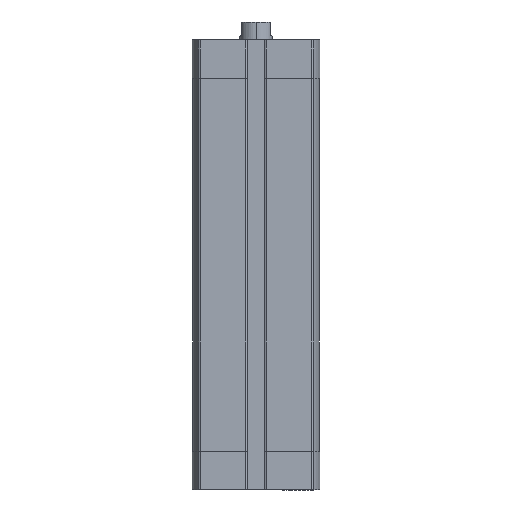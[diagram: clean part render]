
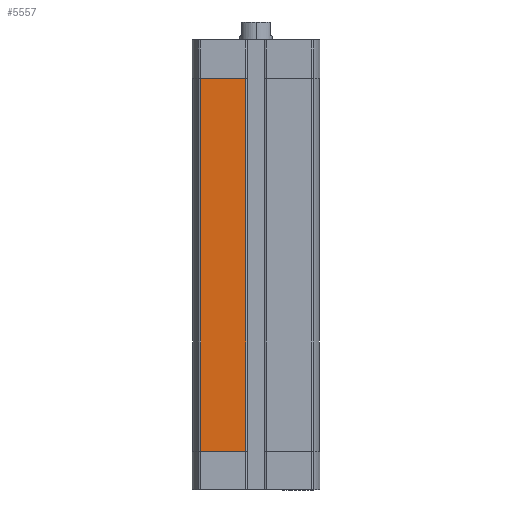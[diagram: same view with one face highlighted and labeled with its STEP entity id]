
A CAD part, left-side view. The second image highlights one B-rep face of the part: STEP entity #5557.
In plain terms, the highlighted planar face has unit normal (-1, 0, 0).
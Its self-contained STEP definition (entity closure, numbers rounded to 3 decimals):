
#160 = VECTOR ( 'NONE', #1015, 1000. ) ;
#391 = CARTESIAN_POINT ( 'NONE',  ( -19.5, 17.091, -127. ) ) ;
#431 = DIRECTION ( 'NONE',  ( 0., 0., 1. ) ) ;
#1015 = DIRECTION ( 'NONE',  ( 0., 0., -1. ) ) ;
#1211 = CARTESIAN_POINT ( 'NONE',  ( -19.5, 3.1, -127. ) ) ;
#1317 = LINE ( 'NONE', #2058, #11454 ) ;
#2058 = CARTESIAN_POINT ( 'NONE',  ( -19.5, 17.091, -127. ) ) ;
#2233 = ORIENTED_EDGE ( 'NONE', *, *, #8835, .T. ) ;
#2240 = DIRECTION ( 'NONE',  ( 0., 0., 1. ) ) ;
#2499 = VERTEX_POINT ( 'NONE', #11256 ) ;
#2971 = EDGE_CURVE ( 'NONE', #2499, #6806, #10975, .T. ) ;
#3708 = CARTESIAN_POINT ( 'NONE',  ( -19.5, 3.1, -12. ) ) ;
#3807 = CARTESIAN_POINT ( 'NONE',  ( -19.5, 3.1, -127. ) ) ;
#5557 = ADVANCED_FACE ( 'NONE', ( #12050 ), #12595, .T. ) ;
#5989 = CARTESIAN_POINT ( 'NONE',  ( -19.5, 17.091, -127. ) ) ;
#6128 = EDGE_LOOP ( 'NONE', ( #11221, #2233, #8827, #7211 ) ) ;
#6550 = DIRECTION ( 'NONE',  ( -1., 0., 0. ) ) ;
#6806 = VERTEX_POINT ( 'NONE', #7212 ) ;
#7211 = ORIENTED_EDGE ( 'NONE', *, *, #2971, .T. ) ;
#7212 = CARTESIAN_POINT ( 'NONE',  ( -19.5, 17.091, -127. ) ) ;
#7384 = VECTOR ( 'NONE', #2240, 1000. ) ;
#7430 = VERTEX_POINT ( 'NONE', #3708 ) ;
#8488 = AXIS2_PLACEMENT_3D ( 'NONE', #391, #6550, #431 ) ;
#8827 = ORIENTED_EDGE ( 'NONE', *, *, #12676, .T. ) ;
#8835 = EDGE_CURVE ( 'NONE', #9802, #7430, #9286, .T. ) ;
#9151 = DIRECTION ( 'NONE',  ( 0., -1., 0. ) ) ;
#9286 = LINE ( 'NONE', #1211, #7384 ) ;
#9388 = EDGE_CURVE ( 'NONE', #6806, #9802, #1317, .T. ) ;
#9802 = VERTEX_POINT ( 'NONE', #3807 ) ;
#10975 = LINE ( 'NONE', #5989, #160 ) ;
#11182 = LINE ( 'NONE', #11889, #12447 ) ;
#11221 = ORIENTED_EDGE ( 'NONE', *, *, #9388, .T. ) ;
#11256 = CARTESIAN_POINT ( 'NONE',  ( -19.5, 17.091, -12. ) ) ;
#11454 = VECTOR ( 'NONE', #9151, 1000. ) ;
#11889 = CARTESIAN_POINT ( 'NONE',  ( -19.5, 0., -12. ) ) ;
#12050 = FACE_OUTER_BOUND ( 'NONE', #6128, .T. ) ;
#12447 = VECTOR ( 'NONE', #12923, 1000. ) ;
#12595 = PLANE ( 'NONE',  #8488 ) ;
#12676 = EDGE_CURVE ( 'NONE', #7430, #2499, #11182, .T. ) ;
#12923 = DIRECTION ( 'NONE',  ( 0., 1., 0. ) ) ;
